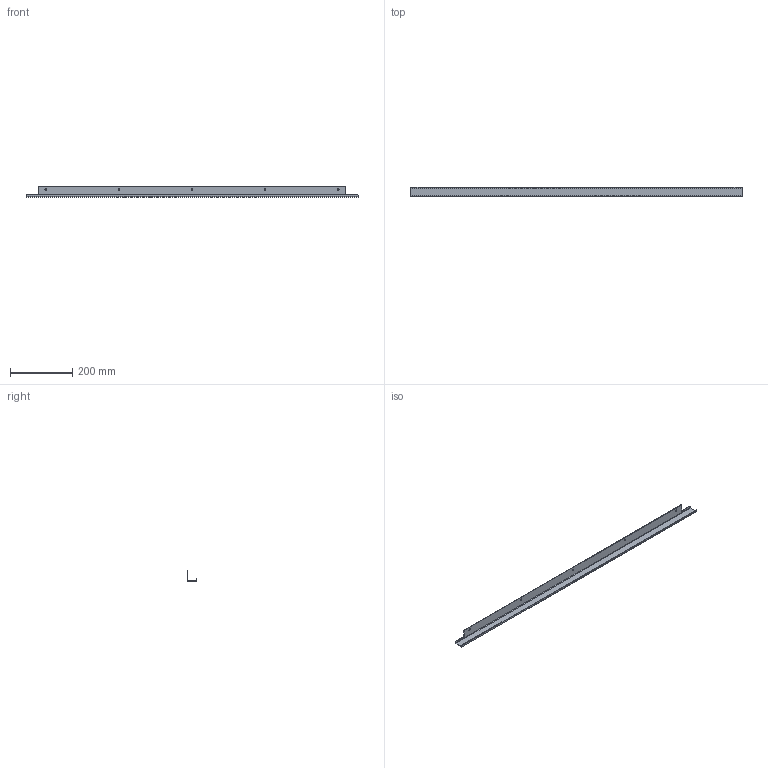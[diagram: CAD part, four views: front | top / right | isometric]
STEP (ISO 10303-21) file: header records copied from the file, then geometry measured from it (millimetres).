
FILE_DESCRIPTION (( 'STEP AP203' ), '1' );
FILE_NAME ('adh42hh.STEP', '2014-01-08T21:35:01', ( 'User' ), ( 'Pentair Inc' ), 'SwSTEP 2.0', 'SolidWorks 2010', '' );
FILE_SCHEMA (( 'CONFIG_CONTROL_DESIGN' ));
Length unit declared in the file: inch
Products named in the file (2): adh42hh; 89100643
Assembly tree (1 placements, depth 2):
  adh42hh
    89100643
Bounding box: 1063.62 x 31.1 x 32.62 mm (x, y, z)
Volume: 124399.7 mm3; surface area: 140329.9 mm2
Topology: 1 solids, 1 shells, 42 faces, 104 edges, 64 vertices
Faces by surface type: plane 22, cylinder 20
Entity records: 1460 total; most frequent: DIRECTION 236, CARTESIAN_POINT 214, ORIENTED_EDGE 208, EDGE_CURVE 104, AXIS2_PLACEMENT_3D 86, VERTEX_POINT 64, LINE 64, VECTOR 64
